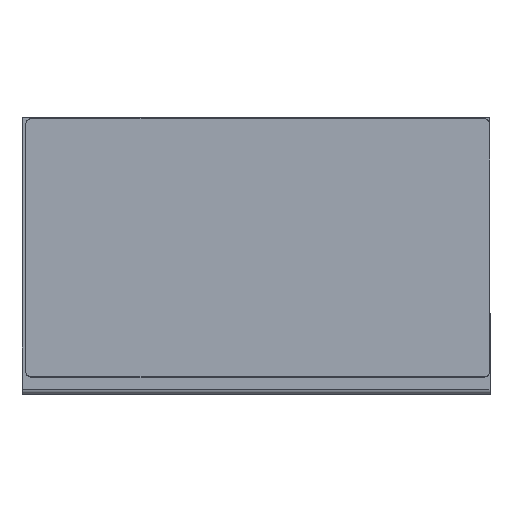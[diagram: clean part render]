
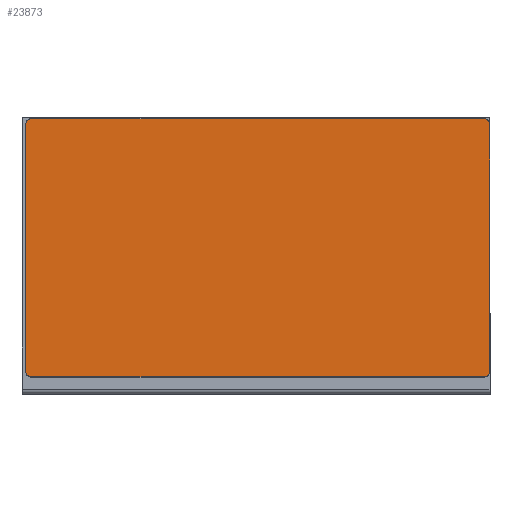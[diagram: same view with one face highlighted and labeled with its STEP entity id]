
A CAD part, top view. The second image highlights one B-rep face of the part: STEP entity #23873.
In plain terms, the highlighted planar face has unit normal (0, 0, 1).
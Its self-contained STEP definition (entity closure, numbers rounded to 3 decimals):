
#1558 = EDGE_CURVE ( 'NONE', #30435, #19614, #2658, .T. ) ;
#1631 = VECTOR ( 'NONE', #8305, 1000. ) ;
#1832 = CARTESIAN_POINT ( 'NONE',  ( 15.892, 100.039, 124.59 ) ) ;
#2658 = CIRCLE ( 'NONE', #15901, 3. ) ;
#2999 = DIRECTION ( 'NONE',  ( 0., 0., 1. ) ) ;
#3440 = ORIENTED_EDGE ( 'NONE', *, *, #5129, .F. ) ;
#3785 = PLANE ( 'NONE',  #5691 ) ;
#4129 = DIRECTION ( 'NONE',  ( -1., 0., 0. ) ) ;
#5029 = DIRECTION ( 'NONE',  ( -1., 0., 0. ) ) ;
#5123 = VERTEX_POINT ( 'NONE', #19955 ) ;
#5129 = EDGE_CURVE ( 'NONE', #28584, #5123, #22972, .T. ) ;
#5134 = LINE ( 'NONE', #1832, #23786 ) ;
#5691 = AXIS2_PLACEMENT_3D ( 'NONE', #6199, #17876, #8406 ) ;
#5729 = CARTESIAN_POINT ( 'NONE',  ( 286.466, 97.039, 124.59 ) ) ;
#5935 = ORIENTED_EDGE ( 'NONE', *, *, #6008, .F. ) ;
#6008 = EDGE_CURVE ( 'NONE', #29128, #24144, #10641, .T. ) ;
#6199 = CARTESIAN_POINT ( 'NONE',  ( 151.687, 23.407, 124.59 ) ) ;
#6557 = DIRECTION ( 'NONE',  ( 0., 0., 1. ) ) ;
#7122 = DIRECTION ( 'NONE',  ( 0., 0., 1. ) ) ;
#7766 = CARTESIAN_POINT ( 'NONE',  ( 15.892, 97.039, 124.59 ) ) ;
#7934 = DIRECTION ( 'NONE',  ( -1., 0., 0. ) ) ;
#8305 = DIRECTION ( 'NONE',  ( 1., 0., 0. ) ) ;
#8406 = DIRECTION ( 'NONE',  ( -1., 0., 0. ) ) ;
#8438 = AXIS2_PLACEMENT_3D ( 'NONE', #30491, #13827, #28374 ) ;
#8736 = ORIENTED_EDGE ( 'NONE', *, *, #9282, .T. ) ;
#8851 = CARTESIAN_POINT ( 'NONE',  ( 286.466, -52.034, 124.59 ) ) ;
#9282 = EDGE_CURVE ( 'NONE', #28584, #24144, #10743, .T. ) ;
#9398 = CARTESIAN_POINT ( 'NONE',  ( 15.892, -52.034, 124.59 ) ) ;
#10026 = ORIENTED_EDGE ( 'NONE', *, *, #22962, .T. ) ;
#10641 = LINE ( 'NONE', #22374, #1631 ) ;
#10743 = CIRCLE ( 'NONE', #14043, 3. ) ;
#12269 = CARTESIAN_POINT ( 'NONE',  ( 18.892, -52.034, 124.59 ) ) ;
#13827 = DIRECTION ( 'NONE',  ( 0., 0., 1. ) ) ;
#14043 = AXIS2_PLACEMENT_3D ( 'NONE', #5729, #2999, #7934 ) ;
#14324 = CARTESIAN_POINT ( 'NONE',  ( 18.892, 100.039, 124.59 ) ) ;
#14351 = LINE ( 'NONE', #9398, #15123 ) ;
#14438 = VERTEX_POINT ( 'NONE', #8851 ) ;
#14536 = EDGE_LOOP ( 'NONE', ( #10026, #15078, #17733, #17559, #3440, #8736, #5935, #30123 ) ) ;
#14825 = CARTESIAN_POINT ( 'NONE',  ( 289.466, 97.039, 124.59 ) ) ;
#15078 = ORIENTED_EDGE ( 'NONE', *, *, #1558, .T. ) ;
#15123 = VECTOR ( 'NONE', #30797, 1000. ) ;
#15901 = AXIS2_PLACEMENT_3D ( 'NONE', #16677, #7122, #5029 ) ;
#16677 = CARTESIAN_POINT ( 'NONE',  ( 18.892, -49.034, 124.59 ) ) ;
#17559 = ORIENTED_EDGE ( 'NONE', *, *, #20723, .T. ) ;
#17733 = ORIENTED_EDGE ( 'NONE', *, *, #29645, .T. ) ;
#17876 = DIRECTION ( 'NONE',  ( 0., 0., -1. ) ) ;
#18567 = AXIS2_PLACEMENT_3D ( 'NONE', #28052, #6557, #4129 ) ;
#19416 = CARTESIAN_POINT ( 'NONE',  ( 289.466, 100.039, 124.59 ) ) ;
#19614 = VERTEX_POINT ( 'NONE', #12269 ) ;
#19955 = CARTESIAN_POINT ( 'NONE',  ( 289.466, -49.034, 124.59 ) ) ;
#20056 = CIRCLE ( 'NONE', #18567, 3. ) ;
#20092 = CARTESIAN_POINT ( 'NONE',  ( 15.892, -49.034, 124.59 ) ) ;
#20723 = EDGE_CURVE ( 'NONE', #14438, #5123, #23614, .T. ) ;
#21368 = CARTESIAN_POINT ( 'NONE',  ( 286.466, 100.039, 124.59 ) ) ;
#22374 = CARTESIAN_POINT ( 'NONE',  ( 15.892, 100.039, 124.59 ) ) ;
#22962 = EDGE_CURVE ( 'NONE', #29417, #30435, #5134, .T. ) ;
#22972 = LINE ( 'NONE', #19416, #27093 ) ;
#23614 = CIRCLE ( 'NONE', #8438, 3. ) ;
#23786 = VECTOR ( 'NONE', #28071, 1000. ) ;
#23873 = ADVANCED_FACE ( 'NONE', ( #27525 ), #3785, .F. ) ;
#24144 = VERTEX_POINT ( 'NONE', #21368 ) ;
#26655 = DIRECTION ( 'NONE',  ( 0., -1., 0. ) ) ;
#27093 = VECTOR ( 'NONE', #26655, 1000. ) ;
#27270 = EDGE_CURVE ( 'NONE', #29128, #29417, #20056, .T. ) ;
#27525 = FACE_OUTER_BOUND ( 'NONE', #14536, .T. ) ;
#28052 = CARTESIAN_POINT ( 'NONE',  ( 18.892, 97.039, 124.59 ) ) ;
#28071 = DIRECTION ( 'NONE',  ( 0., -1., 0. ) ) ;
#28374 = DIRECTION ( 'NONE',  ( -1., 0., 0. ) ) ;
#28584 = VERTEX_POINT ( 'NONE', #14825 ) ;
#29128 = VERTEX_POINT ( 'NONE', #14324 ) ;
#29417 = VERTEX_POINT ( 'NONE', #7766 ) ;
#29645 = EDGE_CURVE ( 'NONE', #19614, #14438, #14351, .T. ) ;
#30123 = ORIENTED_EDGE ( 'NONE', *, *, #27270, .T. ) ;
#30435 = VERTEX_POINT ( 'NONE', #20092 ) ;
#30491 = CARTESIAN_POINT ( 'NONE',  ( 286.466, -49.034, 124.59 ) ) ;
#30797 = DIRECTION ( 'NONE',  ( 1., 0., 0. ) ) ;
